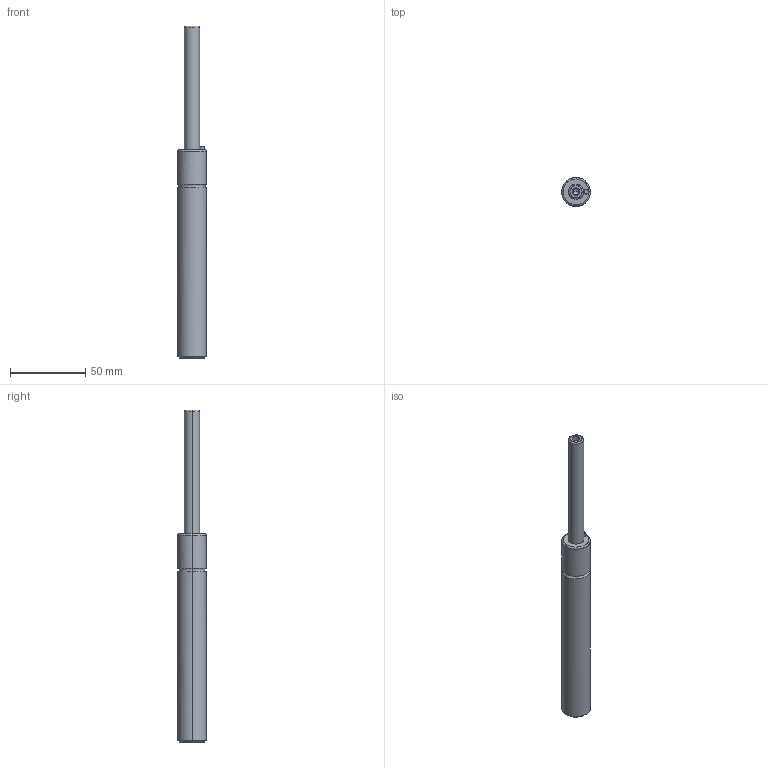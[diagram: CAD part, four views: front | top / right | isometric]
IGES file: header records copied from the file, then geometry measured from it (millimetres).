
Global section: file name: E:\UnigraphicsGraphicData\MISUMI_PRESS-PARTS\IGES\3d_gsm19-80_03945_r00.igs; native system: NX V5.0; preprocessor: UGS NX IGES V5.0; author: MISUMI; date: 20110105.160806; units: millimetre
Bounding box: 19 x 18.97 x 220 mm (x, y, z)
Surface area: 11698.7 mm2 (no closed solid volume)
Topology: 0 solids, 0 shells, 34 faces, 208 edges, 204 vertices
Faces by surface type: bspline 34
